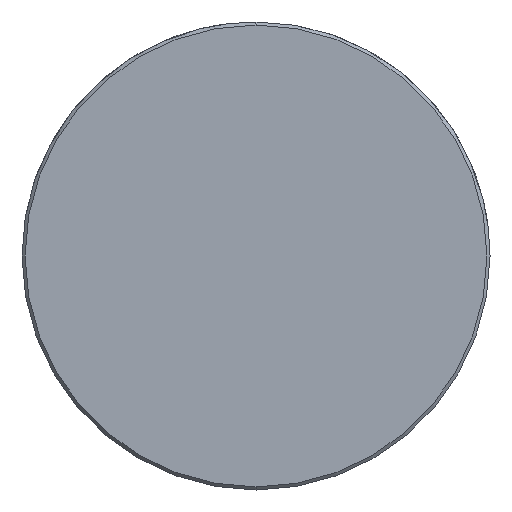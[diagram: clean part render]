
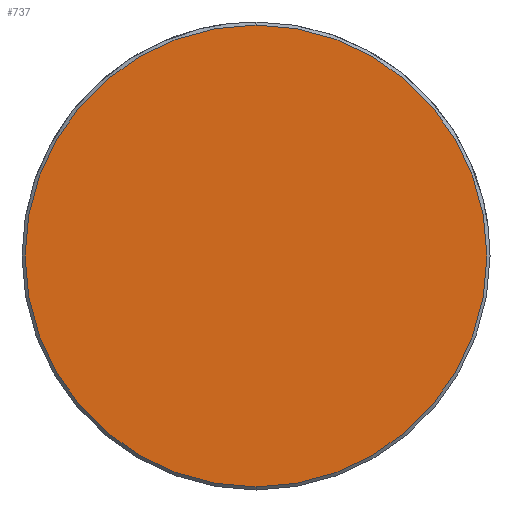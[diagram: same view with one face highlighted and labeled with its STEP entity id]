
A CAD part, left-side view. The second image highlights one B-rep face of the part: STEP entity #737.
In plain terms, the highlighted planar face has unit normal (-1, 0, 0).
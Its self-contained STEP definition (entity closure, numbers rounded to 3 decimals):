
#669=CARTESIAN_POINT('Vertex',(0.,0.,-22.2)) ;
#672=CARTESIAN_POINT('Axis2P3D Location',(0.,0.,0.)) ;
#676=CARTESIAN_POINT('Vertex',(0.,22.2,0.)) ;
#679=CARTESIAN_POINT('Axis2P3D Location',(0.,0.,0.)) ;
#683=CARTESIAN_POINT('Vertex',(0.,0.,22.2)) ;
#705=CARTESIAN_POINT('Axis2P3D Location',(0.,0.,0.)) ;
#709=CARTESIAN_POINT('Vertex',(0.,-22.2,0.)) ;
#712=CARTESIAN_POINT('Axis2P3D Location',(0.,0.,0.)) ;
#726=CARTESIAN_POINT('Axis2P3D Location',(0.,0.,0.)) ;
#673=DIRECTION('Axis2P3D Direction',(1.,0.,-0.)) ;
#680=DIRECTION('Axis2P3D Direction',(1.,0.,-0.)) ;
#706=DIRECTION('Axis2P3D Direction',(1.,0.,-0.)) ;
#713=DIRECTION('Axis2P3D Direction',(1.,0.,-0.)) ;
#727=DIRECTION('Axis2P3D Direction',(1.,0.,-0.)) ;
#728=DIRECTION('Axis2P3D XDirection',(-0.,0.,-1.)) ;
#674=AXIS2_PLACEMENT_3D('Circle Axis2P3D',#672,#673,$) ;
#681=AXIS2_PLACEMENT_3D('Circle Axis2P3D',#679,#680,$) ;
#707=AXIS2_PLACEMENT_3D('Circle Axis2P3D',#705,#706,$) ;
#714=AXIS2_PLACEMENT_3D('Circle Axis2P3D',#712,#713,$) ;
#729=AXIS2_PLACEMENT_3D('Plane Axis2P3D',#726,#727,#728) ;
#732=ORIENTED_EDGE('',*,*,#678,.F.) ;
#733=ORIENTED_EDGE('',*,*,#716,.F.) ;
#734=ORIENTED_EDGE('',*,*,#711,.F.) ;
#735=ORIENTED_EDGE('',*,*,#685,.F.) ;
#737=ADVANCED_FACE('549-40X180',(#736),#730,.F.) ;
#675=CIRCLE('generated circle',#674,22.2) ;
#682=CIRCLE('generated circle',#681,22.2) ;
#708=CIRCLE('generated circle',#707,22.2) ;
#715=CIRCLE('generated circle',#714,22.2) ;
#678=EDGE_CURVE('',#670,#677,#675,.T.) ;
#685=EDGE_CURVE('',#677,#684,#682,.T.) ;
#711=EDGE_CURVE('',#684,#710,#708,.T.) ;
#716=EDGE_CURVE('',#710,#670,#715,.T.) ;
#731=EDGE_LOOP('',(#732,#733,#734,#735)) ;
#736=FACE_OUTER_BOUND('',#731,.T.) ;
#730=PLANE('Plane',#729) ;
#670=VERTEX_POINT('',#669) ;
#677=VERTEX_POINT('',#676) ;
#684=VERTEX_POINT('',#683) ;
#710=VERTEX_POINT('',#709) ;
